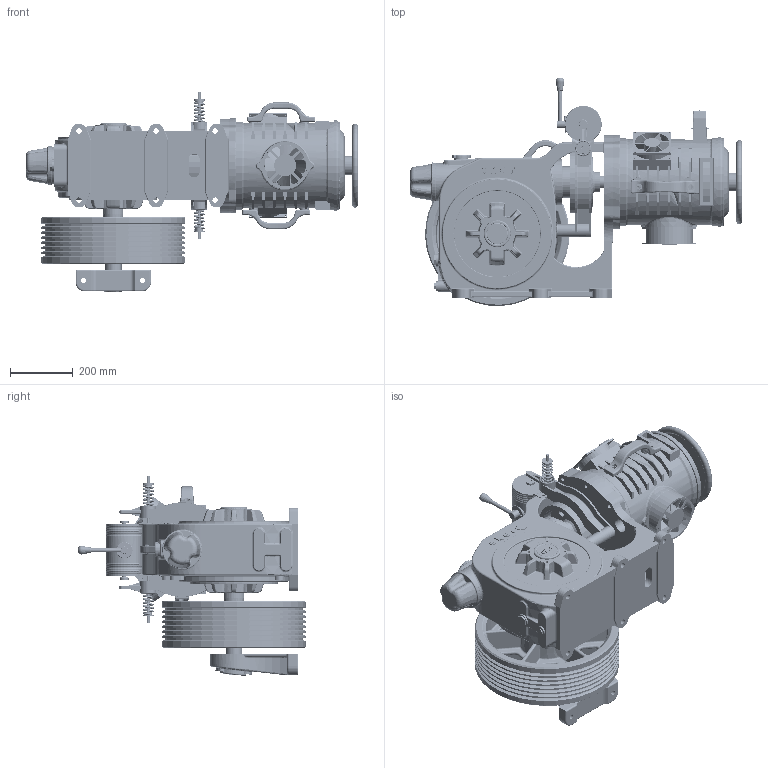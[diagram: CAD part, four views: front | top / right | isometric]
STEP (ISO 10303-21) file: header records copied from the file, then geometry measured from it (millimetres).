
FILE_DESCRIPTION (( 'STEP AP214' ), '1' );
FILE_NAME ('STP15080.STEP', '2024-07-17T09:13:33', ( '' ), ( '' ), 'SwSTEP 2.0', 'SolidWorks 2023', '' );
FILE_SCHEMA (( 'AUTOMOTIVE_DESIGN' ));
Length unit declared in the file: millimetre
Products named in the file (1): STP15080
Bounding box: 1058.07 x 726.48 x 637.28 mm (x, y, z)
Volume: 76730871.8 mm3; surface area: 4324472.7 mm2
Topology: 31 solids, 75 shells, 5099 faces, 12149 edges, 7314 vertices
Faces by surface type: cylinder 1666, plane 1286, bspline 961, torus 603, cone 400, sphere 183
Entity records: 208943 total; most frequent: CARTESIAN_POINT 96966, ORIENTED_EDGE 24040, DIRECTION 22654, EDGE_CURVE 12020, AXIS2_PLACEMENT_3D 9334, VERTEX_POINT 7306, EDGE_LOOP 5594, CIRCLE 5195
